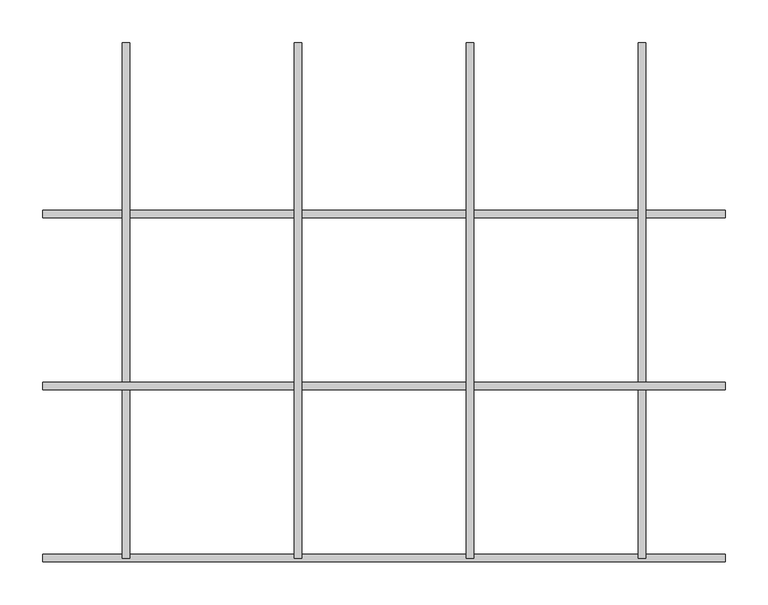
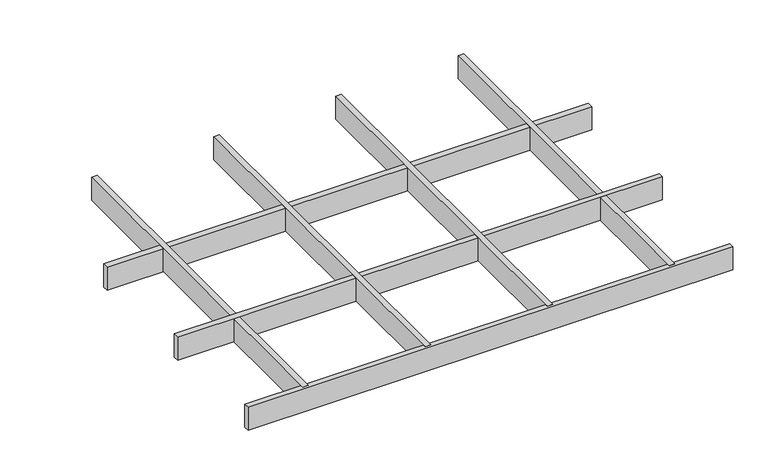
"""IFC4 building model written with IfcOpenShell, lengths in millimetres: proxy geometry, durlum_GEO_panel : durlum_GEO_9_length_cut."""

from ifc_helpers import new_model, si_unit, origin, origin_with_axes, place, context, project, spatial, polyline, outline, extrude, source, transform, mapped, element, save


def generic_models_c5b66b1f(model_context):
    return source(origin(), model_context, "Body", "SweptSolid", [
        extrude(outline(polyline([(95.5, 299.5), (104.5, 299.5), (104.5, -299.5), (95.5, -299.5), (95.5, 299.5)])), origin_with_axes(), (0.0, 0.0, 1.0), 40.0),
        extrude(outline(polyline([(-104.5, 299.5), (-95.5, 299.5), (-95.5, -299.5), (-104.5, -299.5), (-104.5, 299.5)])), origin_with_axes(), (0.0, 0.0, 1.0), 40.0),
        extrude(outline(polyline([(396.5628516, -95.0), (396.5628516, -104.0), (-396.5628516, -104.0), (-396.5628516, -95.0), (396.5628516, -95.0)])), origin_with_axes(), (0.0, 0.0, 1.0), 40.0),
        extrude(outline(polyline([(295.5, 299.5), (304.5, 299.5), (304.5, -299.5), (295.5, -299.5), (295.5, 299.5)])), origin_with_axes(), (0.0, 0.0, 1.0), 40.0),
        extrude(outline(polyline([(-304.5, 299.5), (-295.5, 299.5), (-295.5, -299.5), (-304.5, -299.5), (-304.5, 299.5)])), origin_with_axes(), (0.0, 0.0, 1.0), 40.0),
        extrude(outline(polyline([(396.5628516, -295.0), (396.5628516, -304.0), (-396.5628516, -304.0), (-396.5628516, -295.0), (396.5628516, -295.0)])), origin_with_axes(), (0.0, 0.0, 1.0), 40.0),
        extrude(outline(polyline([(396.5628516, 105.0), (396.5628516, 96.0), (-396.5628516, 96.0), (-396.5628516, 105.0), (396.5628516, 105.0)])), origin_with_axes(), (0.0, 0.0, 1.0), 40.0),
    ])


if __name__ == "__main__":
    model = new_model("IFC4")
    model_context = context("Model", 3, world=origin())
    ifc_project = project(units=[si_unit("LENGTHUNIT", "METRE", prefix="MILLI")], contexts=[model_context])
    site = spatial("IfcSite", under=ifc_project)
    building = spatial("IfcBuilding", under=site)
    placement = place(None, origin())
    generic_models_shape = generic_models_c5b66b1f(model_context)
    element("IfcBuildingElementProxy", 1, Name="durlum_GEO_panel : durlum_GEO_9_length_cut", ObjectType="durlum_GEO_panel : durlum_GEO_9_length_cut", at=placement, inside=building, context=model_context, shape_type="MappedRepresentation", body=[
        mapped(generic_models_shape, transform((0.0, 0.0, 0.0), x_axis=(1.0, 0.0, 0.0), y_axis=(0.0, 1.0, 0.0), z_axis=(0.0, 0.0, 1.0))),
    ])
    save(model, "model.ifc")
